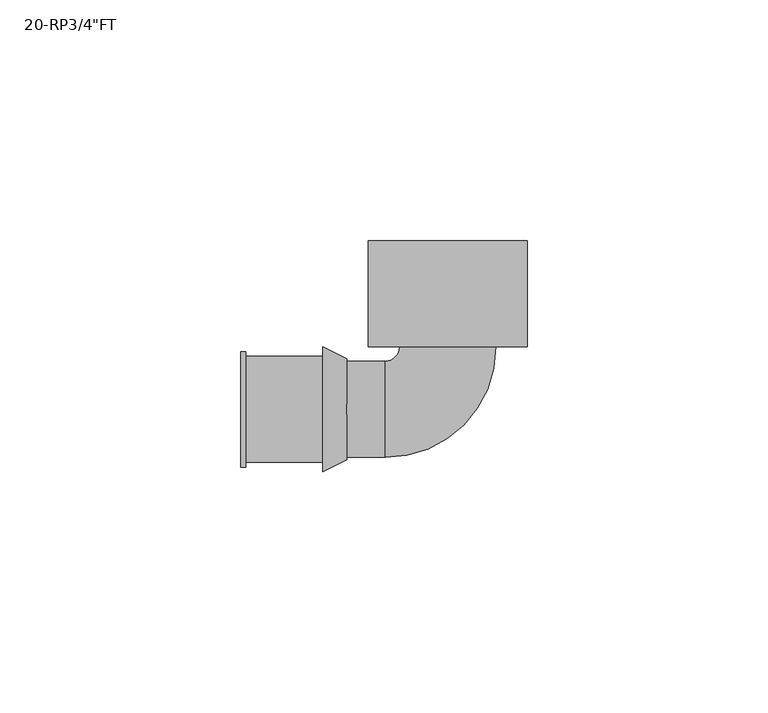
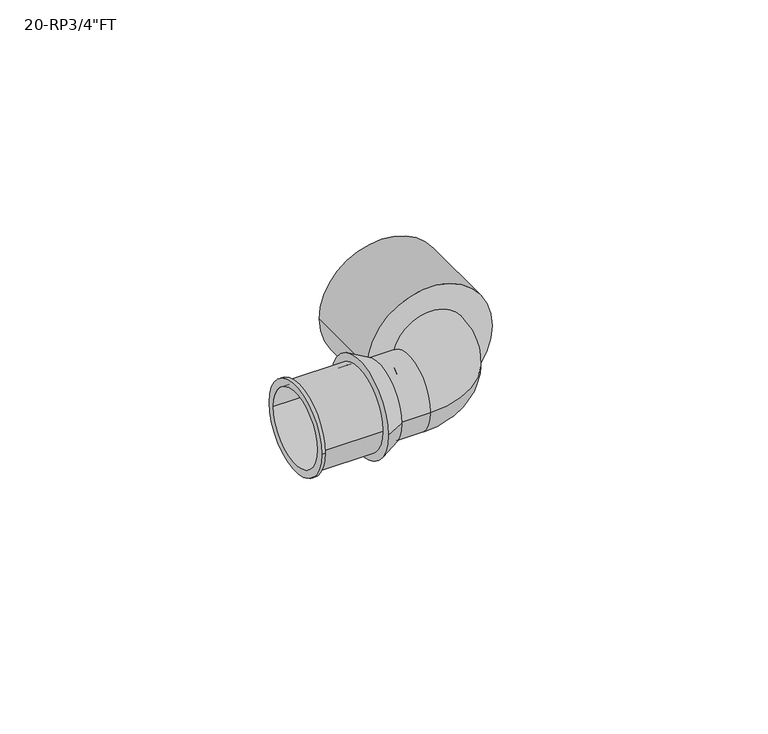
"""IFC4 building model written with IfcOpenShell, lengths in millimetres: pipe fitting geometry."""

import ifcopenshell
import ifcopenshell.guid

model = None  # the IFC model being written
_history = None  # IfcOwnerHistory: only IFC2X3 demands one
_inside = {}  # id of a spatial element -> (the spatial element, [elements in it])
_under = {}  # id of a project, library or spatial element -> (it, [spatial elements below it])
_declared = {}  # id of a project -> (the project, [libraries it declares])
_typed = {}  # id of a type object -> (the type object, [elements of that type])
_made_of = {}  # id of a material, layer set ... -> (it, [elements and type objects made of it])


def new_model(schema):
    """Start an empty IFC model of exactly this schema.

    Asked for "IFC4X3", IfcOpenShell would pick the latest addendum, in which some entities
    have other attributes; the version numbers below select the first issue.
    IFC2X3 requires an IfcOwnerHistory on every rooted entity: one is made here for all.
    """
    global model, _history
    if schema == "IFC4X3":
        model = ifcopenshell.file(schema_version=(4, 3, 0, 0))
    else:
        model = ifcopenshell.file(schema=schema)
    _inside.clear()
    _under.clear()
    _declared.clear()
    _typed.clear()
    _made_of.clear()
    _history = None
    if model.schema == "IFC2X3":
        org = make("IfcOrganization", Name="unknown")
        user = make(
            "IfcPersonAndOrganization",
            ThePerson=make("IfcPerson", FamilyName="unknown"),
            TheOrganization=org,
        )
        app = make(
            "IfcApplication",
            ApplicationDeveloper=org,
            Version="unknown",
            ApplicationFullName="unknown",
            ApplicationIdentifier="unknown",
        )
        _history = make(
            "IfcOwnerHistory",
            OwningUser=user,
            OwningApplication=app,
            ChangeAction="ADDED",
            CreationDate=0,
        )
    return model


def make(cls, **values):
    """One entity of the class cls with the attributes given. An attribute that is None is left unset."""
    return model.create_entity(
        cls, **{name: value for name, value in values.items() if value is not None}
    )


def rooted(cls, **values):
    """An entity with a GlobalId (a new one), such as an element, a storey or a relation."""
    return make(cls, GlobalId=ifcopenshell.guid.new(), OwnerHistory=_history, **values)


def si_unit(unit_type, name, prefix=None):
    """IfcSIUnit, for example si_unit("LENGTHUNIT", "METRE", prefix="MILLI")."""
    return make("IfcSIUnit", UnitType=unit_type, Prefix=prefix, Name=name)


def assignment(units):
    """IfcUnitAssignment: the units of a project."""
    return None if units is None else make("IfcUnitAssignment", Units=units)


def point(xyz):
    """IfcCartesianPoint."""
    return None if xyz is None else make("IfcCartesianPoint", Coordinates=xyz)


def direction(xyz):
    """IfcDirection."""
    return None if xyz is None else make("IfcDirection", DirectionRatios=xyz)


def frame(location, z_axis=None, x_axis=None):
    """IfcAxis2Placement3D, a coordinate frame: its origin and axes. An axis left out is left unset."""
    return make(
        "IfcAxis2Placement3D",
        Location=point(location),
        Axis=direction(z_axis),
        RefDirection=direction(x_axis),
    )


def origin():
    """The frame at (0, 0, 0) with its axes left unset."""
    return frame((0.0, 0.0, 0.0))


def place(relative_to, where):
    """IfcLocalPlacement: puts the frame where relative to a parent placement (None: the world)."""
    return make(
        "IfcLocalPlacement", PlacementRelTo=relative_to, RelativePlacement=where
    )


def context(
    kind, dimensions, precision=None, world=None, true_north=None, identifier=None
):
    """IfcGeometricRepresentationContext, for example the 3D "Model" context."""
    return make(
        "IfcGeometricRepresentationContext",
        ContextIdentifier=identifier,
        ContextType=kind,
        CoordinateSpaceDimension=dimensions,
        Precision=precision,
        WorldCoordinateSystem=world,
        TrueNorth=true_north,
    )


def project(units=None, contexts=None):
    """IfcProject with its units and contexts."""
    return rooted(
        "IfcProject",
        Name="project",
        RepresentationContexts=contexts,
        UnitsInContext=assignment(units),
    )


def spatial(cls, under=None, at=None, **own):
    """A site, building, storey or space (cls), placed at a placement, below another one or the project."""
    s = rooted(cls, ObjectPlacement=at, **own)
    if under is not None:
        _under.setdefault(under.id(), (under, []))[1].append(s)
    return s


def polyline(points):
    """IfcPolyline through the points."""
    return make("IfcPolyline", Points=[point(p) for p in points])


def circle_curve(where, radius):
    """IfcCircle in the frame where."""
    return make("IfcCircle", Position=where, Radius=radius)


def ellipse_curve(where, semi_axis1, semi_axis2):
    """IfcEllipse in the frame where."""
    return make(
        "IfcEllipse", Position=where, SemiAxis1=semi_axis1, SemiAxis2=semi_axis2
    )


def trimmed(basis, trim1, trim2, sense, master):
    """IfcTrimmedCurve: the piece of a basis curve between two trims."""
    return make(
        "IfcTrimmedCurve",
        BasisCurve=basis,
        Trim1=trim1,
        Trim2=trim2,
        SenseAgreement=sense,
        MasterRepresentation=master,
    )


def shape(context_of_items, identifier, shape_type, items):
    """IfcShapeRepresentation: the items that make up one representation, for example the "Body"."""
    return make(
        "IfcShapeRepresentation",
        ContextOfItems=context_of_items,
        RepresentationIdentifier=identifier,
        RepresentationType=shape_type,
        Items=items,
    )


def source(mapping_origin, context_of_items, identifier, shape_type, items):
    """IfcRepresentationMap: a shape defined once, which mapped items show again and again."""
    return make(
        "IfcRepresentationMap",
        MappingOrigin=mapping_origin,
        MappedRepresentation=shape(context_of_items, identifier, shape_type, items),
    )


def transform(
    local_origin,
    x_axis=None,
    y_axis=None,
    z_axis=None,
    scale=None,
    scale2=None,
    scale3=None,
    uniform=True,
):
    """IfcCartesianTransformationOperator3D, or its non-uniform kind. x_axis, y_axis, z_axis: its Axis1, 2, 3."""
    if uniform:
        return make(
            "IfcCartesianTransformationOperator3D",
            Axis1=direction(x_axis),
            Axis2=direction(y_axis),
            LocalOrigin=point(local_origin),
            Scale=scale,
            Axis3=direction(z_axis),
        )
    return make(
        "IfcCartesianTransformationOperator3DnonUniform",
        Axis1=direction(x_axis),
        Axis2=direction(y_axis),
        LocalOrigin=point(local_origin),
        Scale=scale,
        Axis3=direction(z_axis),
        Scale2=scale2,
        Scale3=scale3,
    )


def mapped(mapping_source, mapping_target):
    """IfcMappedItem: shows the shape of a source again, moved by a transform."""
    return make(
        "IfcMappedItem", MappingSource=mapping_source, MappingTarget=mapping_target
    )


def made_of(thing, what):
    """Note that an element or type object is made of a material, layer set ...; save() writes the relation."""
    if what is not None:
        _made_of.setdefault(what.id(), (what, []))[1].append(thing)
    return thing


def element(
    cls,
    number,
    at=None,
    inside=None,
    cuts=None,
    type_object=None,
    material=None,
    context=None,
    identifier="Body",
    shape_type=None,
    held_by="IfcProductDefinitionShape",
    body=None,
    shapes=None,
    **own,
):
    """One element of the class cls, such as IfcWall. Its Tag is "e" and its number.

    at: its placement. inside: the storey or other place that contains it. cuts: it is an
    opening in that element (IfcRelVoidsElement). A single representation is given by context,
    identifier, shape_type and body (its items); several are given by shapes. held_by: the class
    of the entity that holds the representations. save() writes the other relations.
    """
    e = rooted(cls, Tag="e%d" % number, ObjectPlacement=at, **own)
    if body is not None:
        shapes = [shape(context, identifier, shape_type, body)]
    if shapes is not None:
        e.Representation = make(held_by, Representations=shapes)
    if inside is not None:
        _inside.setdefault(inside.id(), (inside, []))[1].append(e)
    if cuts is not None:
        rooted(
            "IfcRelVoidsElement", RelatingBuildingElement=cuts, RelatedOpeningElement=e
        )
    if type_object is not None:
        _typed.setdefault(type_object.id(), (type_object, []))[1].append(e)
    return made_of(e, material)


def aggregate(whole, parts):
    """IfcRelAggregates: a whole, such as a stair, and the parts it consists of."""
    return rooted("IfcRelAggregates", RelatingObject=whole, RelatedObjects=parts)


def save(model, path):
    """Write the relations noted so far, then the file.

    IfcRelAggregates (storeys below a building ...), IfcRelContainedInSpatialStructure (elements
    in a storey), IfcRelDefinesByType, IfcRelAssociatesMaterial and IfcRelDeclares: one each for
    every whole, place, type object, material and project.
    """
    for whole, parts in _under.values():
        aggregate(whole, parts)
    for where, things in _inside.values():
        rooted(
            "IfcRelContainedInSpatialStructure",
            RelatedElements=things,
            RelatingStructure=where,
        )
    for kind, things in _typed.values():
        rooted("IfcRelDefinesByType", RelatedObjects=things, RelatingType=kind)
    for what, things in _made_of.values():
        rooted("IfcRelAssociatesMaterial", RelatedObjects=things, RelatingMaterial=what)
    for by, libraries in _declared.values():
        rooted("IfcRelDeclares", RelatingContext=by, RelatedDefinitions=libraries)
    model.write(path)


def plane_surface(at):
    """IfcPlane: the flat surface through the origin of the frame at, square to its z axis."""
    return make("IfcPlane", Position=at)


def cylinder_surface(at, radius):
    """IfcCylindricalSurface: all points at the distance radius from the z axis of the frame at."""
    return make("IfcCylindricalSurface", Position=at, Radius=radius)


def revolved_surface(curve, axis_point, axis_direction):
    """IfcSurfaceOfRevolution: the curve turned about the line through axis_point along axis_direction."""
    return make(
        "IfcSurfaceOfRevolution",
        SweptCurve=make("IfcArbitraryOpenProfileDef", ProfileType="CURVE", Curve=curve),
        AxisPosition=make("IfcAxis1Placement", Location=point(axis_point), Axis=direction(axis_direction)),
    )


def advanced_brep(points, edges, surfaces, faces):
    """IfcAdvancedBrep: a solid bounded by faces that lie on surfaces and meet in shared edges.

    An edge is (start, end): straight between two places in points (the first is 0);
    or (start, end, curve); or (start, end, curve, False) where it runs against its curve.
    A face is (place in surfaces, loops), or (place, loops, False) where it looks against
    its surface's normal. A loop lists edges by number (the first is 1), with a minus sign
    where the edge is run from its end to its start. The first loop is the outer one.
    """
    corners = [point(p) for p in points]
    vertices = [make("IfcVertexPoint", VertexGeometry=c) for c in corners]
    made = []
    for start, end, *more in edges:
        made.append(
            make(
                "IfcEdgeCurve",
                EdgeStart=vertices[start],
                EdgeEnd=vertices[end],
                EdgeGeometry=more[0] if more else make("IfcPolyline", Points=[corners[start], corners[end]]),
                SameSense=more[1] if len(more) > 1 else True,
            )
        )
    hull = []
    for where, loops, *sense in faces:
        bounds = []
        for j, loop in enumerate(loops):
            ring = [make("IfcOrientedEdge", EdgeElement=made[abs(k) - 1], Orientation=k > 0) for k in loop]
            bounds.append(
                make(
                    "IfcFaceOuterBound" if j == 0 else "IfcFaceBound",
                    Bound=make("IfcEdgeLoop", EdgeList=ring),
                    Orientation=True,
                )
            )
        hull.append(make("IfcAdvancedFace", Bounds=bounds, FaceSurface=surfaces[where], SameSense=sense[0] if sense else True))
    return make("IfcAdvancedBrep", Outer=make("IfcClosedShell", CfsFaces=hull))


def pipe_fitting_f31cd02a(model_context):
    return source(origin(), model_context, "Body", "AdvancedBrep", [
        advanced_brep(
        [(-16.5, 35.0, 0.0), (16.5, 35.0, 0.0), (-12.5, 35.0, 0.0), (12.5, 35.0, 0.0), (-16.5, 13.0, 0.0), (16.5, 13.0, 0.0), (-12.5, 14.0, 0.0), (12.5, 14.0, 0.0)],
        [
            (0, 1, circle_curve(frame((0.0, 35.0, 0.0), z_axis=(0.0, 1.0, 0.0), x_axis=(1.0, 0.0, 0.0)), 16.5)),
            (1, 0, circle_curve(frame((0.0, 35.0, 0.0), z_axis=(0.0, 1.0, 0.0), x_axis=(1.0, 0.0, 0.0)), 16.5)),
            (2, 3, circle_curve(frame((0.0, 35.0, 0.0), z_axis=(0.0, -1.0, 0.0), x_axis=(1.0, 0.0, 0.0)), 12.5)),
            (3, 2, circle_curve(frame((0.0, 35.0, 0.0), z_axis=(0.0, -1.0, 0.0), x_axis=(1.0, 0.0, 0.0)), 12.5)),
            (4, 5, circle_curve(frame((0.0, 13.0, 0.0), z_axis=(0.0, -1.0, 0.0), x_axis=(1.0, 0.0, 0.0)), 16.5)),
            (5, 4, circle_curve(frame((0.0, 13.0, 0.0), z_axis=(0.0, -1.0, 0.0), x_axis=(1.0, 0.0, 0.0)), 16.5)),
            (1, 5),
            (4, 0),
            (2, 6),
            (6, 7, circle_curve(frame((0.0, 14.0, 0.0), z_axis=(0.0, -1.0, 0.0), x_axis=(1.0, 0.0, 0.0)), 12.5)),
            (7, 3),
            (7, 6, circle_curve(frame((0.0, 14.0, 0.0), z_axis=(0.0, -1.0, 0.0), x_axis=(1.0, 0.0, 0.0)), 12.5)),
        ],
        [
            plane_surface(frame((0.0, 35.0, 0.0), z_axis=(0.0, 1.0, 0.0), x_axis=(0.0, 0.0, 1.0))),
            plane_surface(frame((0.0, 13.0, 0.0), z_axis=(0.0, -1.0, 0.0), x_axis=(0.0, 0.0, 1.0))),
            cylinder_surface(frame((0.0, 35.0, 0.0), z_axis=(0.0, 1.0, 0.0), x_axis=(1.0, 0.0, 0.0)), 16.5),
            revolved_surface(polyline([(12.5, 14.0, 0.0), (12.5, 35.0, 0.0)]), (0.0, 35.0, 0.0), (0.0, -1.0, 0.0)),
            plane_surface(frame((0.0, 14.0, 0.0), z_axis=(0.0, 1.0, 0.0), x_axis=(0.0, 0.0, 1.0))),
        ],
        [
            (0, [[1, 2], [3, 4]]),
            (1, [[5, 6]]),
            (2, [[-2, 7, -5, 8]]),
            (2, [[-1, -8, -6, -7]]),
            (3, [[-3, 9, 10, 11]]),
            (3, [[-4, -11, 12, -9]]),
            (4, [[-10, -12]]),
        ],
    ),
        advanced_brep(
        [(10.0, 13.0, 0.0), (-10.0, 13.0, 0.0), (-13.0, 10.0, 0.0), (-13.0, -10.0, 0.0), (-21.0, -10.0, 0.0), (-21.0, 10.0, 0.0)],
        [
            (0, 1, circle_curve(frame((0.0, 13.0, 0.0), z_axis=(0.0, 1.0, 0.0), x_axis=(-1.0, 0.0, 0.0)), 10.0)),
            (1, 0, circle_curve(frame((0.0, 13.0, 0.0), z_axis=(0.0, 1.0, 0.0), x_axis=(-1.0, 0.0, 0.0)), 10.0)),
            (1, 2, circle_curve(frame((-13.0, 13.0, 0.0), z_axis=(0.0, 0.0, -1.0), x_axis=(0.0, -1.0, 0.0)), 3.0)),
            (2, 3, circle_curve(frame((-13.0, 0.0, 0.0), z_axis=(1.0, 0.0, 0.0), x_axis=(0.0, 1.0, 0.0)), 10.0)),
            (3, 0, circle_curve(frame((-13.0, 13.0, 0.0), z_axis=(0.0, 0.0, 1.0), x_axis=(0.0, -1.0, 0.0)), 23.0)),
            (3, 2, circle_curve(frame((-13.0, 0.0, 0.0), z_axis=(1.0, 0.0, 0.0), x_axis=(0.0, 1.0, 0.0)), 10.0)),
            (4, 5, circle_curve(frame((-21.0, 0.0, 0.0), z_axis=(-1.0, 0.0, 0.0), x_axis=(0.0, 1.0, 0.0)), 10.0)),
            (5, 4, circle_curve(frame((-21.0, 0.0, 0.0), z_axis=(-1.0, 0.0, 0.0), x_axis=(0.0, 1.0, 0.0)), 10.0)),
            (4, 3),
            (2, 5),
        ],
        [
            plane_surface(frame((0.0, 13.0, 0.0), z_axis=(0.0, 1.0, 0.0), x_axis=(0.0, 0.0, 1.0))),
            revolved_surface(trimmed(ellipse_curve(frame((-13.0, 0.0, 0.0), z_axis=(-1.0, 0.0, 0.0), x_axis=(0.0, 1.0, 0.0)), 10.0, 10.0), [point((-13.0, -10.0, 0.0))], [point((-13.0, 10.0, 0.0))], True, "CARTESIAN"), (-13.0, 13.0, 0.0), (0.0, 0.0, 1.0)),
            revolved_surface(trimmed(ellipse_curve(frame((-13.0, 0.0, 0.0), z_axis=(-1.0, 0.0, 0.0), x_axis=(0.0, 1.0, 0.0)), 10.0, 10.0), [point((-13.0, 10.0, 0.0))], [point((-13.0, -10.0, 0.0))], True, "CARTESIAN"), (-13.0, 13.0, 0.0), (0.0, 0.0, 1.0)),
            plane_surface(frame((-21.0, 0.0, 0.0), z_axis=(-1.0, 0.0, 0.0), x_axis=(0.0, 0.0, 1.0))),
            cylinder_surface(frame((-21.0, 0.0, 0.0), z_axis=(-1.0, 0.0, 0.0), x_axis=(0.0, 1.0, 0.0)), 10.0),
        ],
        [
            (0, [[1, 2]]),
            (1, [[-2, 3, 4, 5]]),
            (2, [[-1, -5, 6, -3]]),
            (3, [[7, 8]]),
            (4, [[-7, 9, -4, 10]]),
            (4, [[-8, -10, -6, -9]]),
        ],
    ),
        advanced_brep(
        [(-21.0, -10.5, 0.0), (-21.0, 10.5, 0.0), (-21.0, 10.0, 0.0), (-21.0, -10.0, 0.0), (-26.0, -13.0, 0.0), (-26.0, 13.0, 0.0), (-26.0, -10.0, 0.0), (-26.0, 10.0, 0.0)],
        [
            (0, 1, circle_curve(frame((-21.0, 0.0, 0.0), z_axis=(1.0, 0.0, 0.0), x_axis=(0.0, -1.0, 0.0)), 10.5)),
            (1, 0, circle_curve(frame((-21.0, 0.0, 0.0), z_axis=(1.0, 0.0, 0.0), x_axis=(0.0, 1.0, 0.0)), 10.5)),
            (2, 3, circle_curve(frame((-21.0, 0.0, 0.0), z_axis=(-1.0, 0.0, 0.0), x_axis=(0.0, 1.0, 0.0)), 10.0)),
            (3, 2, circle_curve(frame((-21.0, 0.0, 0.0), z_axis=(-1.0, 0.0, 0.0), x_axis=(0.0, 1.0, 0.0)), 10.0)),
            (4, 5, circle_curve(frame((-26.0, 0.0, 0.0), z_axis=(-1.0, 0.0, 0.0), x_axis=(0.0, 1.0, 0.0)), 13.0)),
            (5, 4, circle_curve(frame((-26.0, 0.0, 0.0), z_axis=(-1.0, 0.0, 0.0), x_axis=(0.0, -1.0, 0.0)), 13.0)),
            (6, 7, circle_curve(frame((-26.0, 0.0, 0.0), z_axis=(1.0, 0.0, 0.0), x_axis=(0.0, 1.0, 0.0)), 10.0)),
            (7, 6, circle_curve(frame((-26.0, 0.0, 0.0), z_axis=(1.0, 0.0, 0.0), x_axis=(0.0, 1.0, 0.0)), 10.0)),
            (0, 4),
            (5, 1),
            (2, 7),
            (6, 3),
        ],
        [
            plane_surface(frame((-21.0, 0.0, 0.0), z_axis=(1.0, 0.0, 0.0), x_axis=(0.0, 0.0, -1.0))),
            plane_surface(frame((-26.0, 0.0, 0.0), z_axis=(-1.0, 0.0, 0.0), x_axis=(0.0, 0.0, -1.0))),
            revolved_surface(polyline([(-21.0, -10.5, 0.0), (-26.0, -13.0, 0.0)]), (0.0, 0.0, 0.0), (-1.0, 0.0, 0.0)),
            revolved_surface(polyline([(-21.0, 10.5, 0.0), (-26.0, 13.0, 0.0)]), (0.0, 0.0, 0.0), (-1.0, 0.0, 0.0)),
            revolved_surface(polyline([(-21.0, 10.0, 0.0), (-26.0, 10.0, 0.0)]), (-26.0, 0.0, 0.0), (1.0, 0.0, 0.0)),
        ],
        [
            (0, [[1, 2], [3, 4]]),
            (1, [[5, 6], [7, 8]]),
            (2, [[-1, 9, -6, 10]]),
            (3, [[-2, -10, -5, -9]]),
            (4, [[11, -7, 12, -3]]),
            (4, [[-11, -4, -12, -8]]),
        ],
    ),
        advanced_brep(
        [(-43.0, -12.0, 0.0), (-43.0, 12.0, 0.0), (-43.0, -10.0, 0.0), (-43.0, 10.0, 0.0), (-26.0, -11.0, 0.0), (-26.0, 11.0, 0.0), (-26.0, -10.0, 0.0), (-26.0, 10.0, 0.0), (-42.0, 11.0, 0.0), (-42.0, -11.0, 0.0), (-42.0, -12.0, 0.0), (-42.0, 12.0, 0.0)],
        [
            (0, 1, circle_curve(frame((-43.0, 0.0, 0.0), z_axis=(-1.0, 0.0, 0.0), x_axis=(0.0, 1.0, 0.0)), 12.0)),
            (1, 0, circle_curve(frame((-43.0, 0.0, 0.0), z_axis=(-1.0, 0.0, 0.0), x_axis=(0.0, 1.0, 0.0)), 12.0)),
            (2, 3, circle_curve(frame((-43.0, 0.0, 0.0), z_axis=(1.0, 0.0, 0.0), x_axis=(0.0, 1.0, 0.0)), 10.0)),
            (3, 2, circle_curve(frame((-43.0, 0.0, 0.0), z_axis=(1.0, 0.0, 0.0), x_axis=(0.0, 1.0, 0.0)), 10.0)),
            (4, 5, circle_curve(frame((-26.0, 0.0, 0.0), z_axis=(1.0, 0.0, 0.0), x_axis=(0.0, 1.0, 0.0)), 11.0)),
            (5, 4, circle_curve(frame((-26.0, 0.0, 0.0), z_axis=(1.0, 0.0, 0.0), x_axis=(0.0, 1.0, 0.0)), 11.0)),
            (6, 7, circle_curve(frame((-26.0, 0.0, 0.0), z_axis=(-1.0, 0.0, 0.0), x_axis=(0.0, 1.0, 0.0)), 10.0)),
            (7, 6, circle_curve(frame((-26.0, 0.0, 0.0), z_axis=(-1.0, 0.0, 0.0), x_axis=(0.0, 1.0, 0.0)), 10.0)),
            (2, 6),
            (7, 3),
            (5, 8),
            (8, 9, circle_curve(frame((-42.0, 0.0, 0.0), z_axis=(1.0, 0.0, 0.0), x_axis=(0.0, 1.0, 0.0)), 11.0)),
            (9, 4),
            (9, 8, circle_curve(frame((-42.0, 0.0, 0.0), z_axis=(1.0, 0.0, 0.0), x_axis=(0.0, 1.0, 0.0)), 11.0)),
            (10, 11, circle_curve(frame((-42.0, 0.0, 0.0), z_axis=(1.0, 0.0, 0.0), x_axis=(0.0, 1.0, 0.0)), 12.0)),
            (11, 10, circle_curve(frame((-42.0, 0.0, 0.0), z_axis=(1.0, 0.0, 0.0), x_axis=(0.0, 1.0, 0.0)), 12.0)),
            (0, 10),
            (11, 1),
        ],
        [
            plane_surface(frame((-43.0, 0.0, 0.0), z_axis=(-1.0, 0.0, 0.0), x_axis=(0.0, 0.0, 1.0))),
            plane_surface(frame((-26.0, 0.0, 0.0), z_axis=(1.0, 0.0, 0.0), x_axis=(0.0, 0.0, 1.0))),
            revolved_surface(polyline([(-26.0, 10.0, 0.0), (-43.0, 10.0, 0.0)]), (-43.0, 0.0, 0.0), (1.0, 0.0, 0.0)),
            cylinder_surface(frame((-43.0, 0.0, 0.0), z_axis=(-1.0, 0.0, 0.0), x_axis=(0.0, 1.0, 0.0)), 11.0),
            plane_surface(frame((-42.0, 0.0, 0.0), z_axis=(1.0, 0.0, 0.0), x_axis=(0.0, 0.0, 1.0))),
            cylinder_surface(frame((-43.0, 0.0, 0.0), z_axis=(-1.0, 0.0, 0.0), x_axis=(0.0, 1.0, 0.0)), 12.0),
        ],
        [
            (0, [[1, 2], [3, 4]]),
            (1, [[5, 6], [7, 8]]),
            (2, [[-3, 9, -8, 10]]),
            (2, [[-4, -10, -7, -9]]),
            (3, [[-6, 11, 12, 13]]),
            (3, [[-5, -13, 14, -11]]),
            (4, [[15, 16], [-12, -14]]),
            (5, [[-1, 17, -16, 18]]),
            (5, [[-2, -18, -15, -17]]),
        ],
    ),
    ])


if __name__ == "__main__":
    model = new_model("IFC4")
    model_context = context("Model", 3, world=origin())
    ifc_project = project(units=[si_unit("LENGTHUNIT", "METRE", prefix="MILLI")], contexts=[model_context])
    site = spatial("IfcSite", under=ifc_project)
    building = spatial("IfcBuilding", under=site)
    placement = place(None, origin())
    pipe_fitting_shape = pipe_fitting_f31cd02a(model_context)
    element("IfcPipeFitting", 1, ObjectType="SuperPipe_ElbowAdapterFT_MAX_RP : 20-RP3/4\"FT", at=placement, inside=building, context=model_context, shape_type="MappedRepresentation", body=[
        mapped(pipe_fitting_shape, transform((0.0, 0.0, 0.0), x_axis=(1.0, 0.0, 0.0), y_axis=(0.0, 1.0, 0.0), z_axis=(0.0, 0.0, 1.0))),
    ])
    save(model, "model.ifc")
